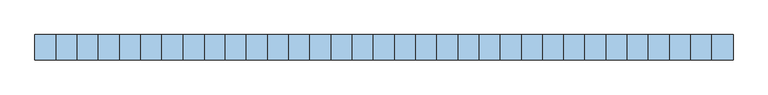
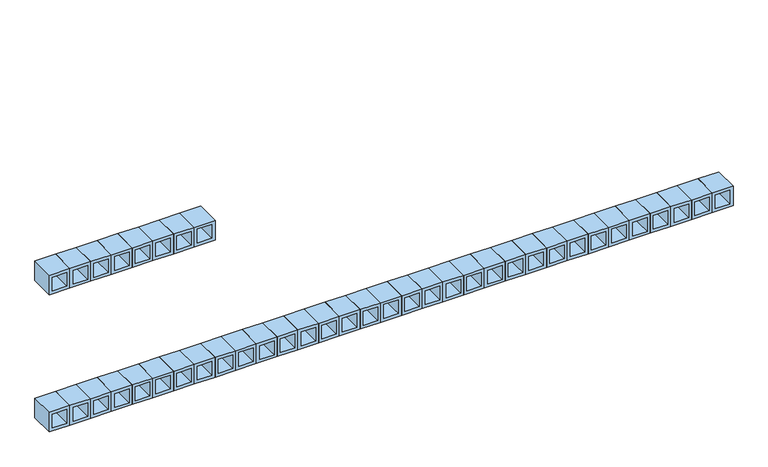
"""IFC4 building model written with IfcOpenShell, lengths in millimetres: window geometry, Concrete_Cobog_Hollow_block_14694 : Cobogó 3,25 x 0,80 m."""

from ifc_helpers import new_model, si_unit, frame, origin, place, context, project, spatial, polyline, outline, extrude, source, transform, mapped, element, save


def window_02d14e1e(model_context):
    return source(origin(), model_context, "Body", "SweptSolid", [
        extrude(outline(polyline([(1500.0, -850.0), (1600.0, -850.0), (1600.0, -950.0), (1500.0, -950.0), (1500.0, -850.0)]), holes=[polyline([(1585.0, -935.0), (1585.0, -865.0), (1515.0, -865.0), (1515.0, -935.0), (1585.0, -935.0)])]), frame((0.0, -60.0, 0.0), z_axis=(0.0, 1.0, 0.0), x_axis=(0.0, 0.0, 1.0)), (0.0, 0.0, 1.0), 120.0),
        extrude(outline(polyline([(1500.0, -950.0), (1600.0, -950.0), (1600.0, -1050.0), (1500.0, -1050.0), (1500.0, -950.0)]), holes=[polyline([(1585.0, -1035.0), (1585.0, -965.0), (1515.0, -965.0), (1515.0, -1035.0), (1585.0, -1035.0)])]), frame((0.0, -60.0, 0.0), z_axis=(0.0, 1.0, 0.0), x_axis=(0.0, 0.0, 1.0)), (0.0, 0.0, 1.0), 120.0),
        extrude(outline(polyline([(1500.0, -1050.0), (1600.0, -1050.0), (1600.0, -1150.0), (1500.0, -1150.0), (1500.0, -1050.0)]), holes=[polyline([(1585.0, -1135.0), (1585.0, -1065.0), (1515.0, -1065.0), (1515.0, -1135.0), (1585.0, -1135.0)])]), frame((0.0, -60.0, 0.0), z_axis=(0.0, 1.0, 0.0), x_axis=(0.0, 0.0, 1.0)), (0.0, 0.0, 1.0), 120.0),
        extrude(outline(polyline([(1500.0, -1150.0), (1600.0, -1150.0), (1600.0, -1250.0), (1500.0, -1250.0), (1500.0, -1150.0)]), holes=[polyline([(1585.0, -1235.0), (1585.0, -1165.0), (1515.0, -1165.0), (1515.0, -1235.0), (1585.0, -1235.0)])]), frame((0.0, -60.0, 0.0), z_axis=(0.0, 1.0, 0.0), x_axis=(0.0, 0.0, 1.0)), (0.0, 0.0, 1.0), 120.0),
        extrude(outline(polyline([(1500.0, -1250.0), (1600.0, -1250.0), (1600.0, -1350.0), (1500.0, -1350.0), (1500.0, -1250.0)]), holes=[polyline([(1585.0, -1335.0), (1585.0, -1265.0), (1515.0, -1265.0), (1515.0, -1335.0), (1585.0, -1335.0)])]), frame((0.0, -60.0, 0.0), z_axis=(0.0, 1.0, 0.0), x_axis=(0.0, 0.0, 1.0)), (0.0, 0.0, 1.0), 120.0),
        extrude(outline(polyline([(1500.0, -1350.0), (1600.0, -1350.0), (1600.0, -1450.0), (1500.0, -1450.0), (1500.0, -1350.0)]), holes=[polyline([(1585.0, -1435.0), (1585.0, -1365.0), (1515.0, -1365.0), (1515.0, -1435.0), (1585.0, -1435.0)])]), frame((0.0, -60.0, 0.0), z_axis=(0.0, 1.0, 0.0), x_axis=(0.0, 0.0, 1.0)), (0.0, 0.0, 1.0), 120.0),
        extrude(outline(polyline([(1500.0, -1450.0), (1600.0, -1450.0), (1600.0, -1550.0), (1500.0, -1550.0), (1500.0, -1450.0)]), holes=[polyline([(1585.0, -1535.0), (1585.0, -1465.0), (1515.0, -1465.0), (1515.0, -1535.0), (1585.0, -1535.0)])]), frame((0.0, -60.0, 0.0), z_axis=(0.0, 1.0, 0.0), x_axis=(0.0, 0.0, 1.0)), (0.0, 0.0, 1.0), 120.0),
        extrude(outline(polyline([(1500.0, -1550.0), (1600.0, -1550.0), (1600.0, -1650.0), (1500.0, -1650.0), (1500.0, -1550.0)]), holes=[polyline([(1585.0, -1635.0), (1585.0, -1565.0), (1515.0, -1565.0), (1515.0, -1635.0), (1585.0, -1635.0)])]), frame((0.0, -60.0, 0.0), z_axis=(0.0, 1.0, 0.0), x_axis=(0.0, 0.0, 1.0)), (0.0, 0.0, 1.0), 120.0),
        extrude(outline(polyline([(800.0, 1650.0), (900.0, 1650.0), (900.0, 1550.0), (800.0, 1550.0), (800.0, 1650.0)]), holes=[polyline([(885.0, 1565.0), (885.0, 1635.0), (815.0, 1635.0), (815.0, 1565.0), (885.0, 1565.0)])]), frame((0.0, -60.0, 0.0), z_axis=(0.0, 1.0, 0.0), x_axis=(0.0, 0.0, 1.0)), (0.0, 0.0, 1.0), 120.0),
        extrude(outline(polyline([(800.0, 1550.0), (900.0, 1550.0), (900.0, 1450.0), (800.0, 1450.0), (800.0, 1550.0)]), holes=[polyline([(885.0, 1465.0), (885.0, 1535.0), (815.0, 1535.0), (815.0, 1465.0), (885.0, 1465.0)])]), frame((0.0, -60.0, 0.0), z_axis=(0.0, 1.0, 0.0), x_axis=(0.0, 0.0, 1.0)), (0.0, 0.0, 1.0), 120.0),
        extrude(outline(polyline([(800.0, 1450.0), (900.0, 1450.0), (900.0, 1350.0), (800.0, 1350.0), (800.0, 1450.0)]), holes=[polyline([(885.0, 1365.0), (885.0, 1435.0), (815.0, 1435.0), (815.0, 1365.0), (885.0, 1365.0)])]), frame((0.0, -60.0, 0.0), z_axis=(0.0, 1.0, 0.0), x_axis=(0.0, 0.0, 1.0)), (0.0, 0.0, 1.0), 120.0),
        extrude(outline(polyline([(800.0, 1350.0), (900.0, 1350.0), (900.0, 1250.0), (800.0, 1250.0), (800.0, 1350.0)]), holes=[polyline([(885.0, 1265.0), (885.0, 1335.0), (815.0, 1335.0), (815.0, 1265.0), (885.0, 1265.0)])]), frame((0.0, -60.0, 0.0), z_axis=(0.0, 1.0, 0.0), x_axis=(0.0, 0.0, 1.0)), (0.0, 0.0, 1.0), 120.0),
        extrude(outline(polyline([(800.0, 1250.0), (900.0, 1250.0), (900.0, 1150.0), (800.0, 1150.0), (800.0, 1250.0)]), holes=[polyline([(885.0, 1165.0), (885.0, 1235.0), (815.0, 1235.0), (815.0, 1165.0), (885.0, 1165.0)])]), frame((0.0, -60.0, 0.0), z_axis=(0.0, 1.0, 0.0), x_axis=(0.0, 0.0, 1.0)), (0.0, 0.0, 1.0), 120.0),
        extrude(outline(polyline([(800.0, 1150.0), (900.0, 1150.0), (900.0, 1050.0), (800.0, 1050.0), (800.0, 1150.0)]), holes=[polyline([(885.0, 1065.0), (885.0, 1135.0), (815.0, 1135.0), (815.0, 1065.0), (885.0, 1065.0)])]), frame((0.0, -60.0, 0.0), z_axis=(0.0, 1.0, 0.0), x_axis=(0.0, 0.0, 1.0)), (0.0, 0.0, 1.0), 120.0),
        extrude(outline(polyline([(800.0, 1050.0), (900.0, 1050.0), (900.0, 950.0), (800.0, 950.0), (800.0, 1050.0)]), holes=[polyline([(885.0, 965.0), (885.0, 1035.0), (815.0, 1035.0), (815.0, 965.0), (885.0, 965.0)])]), frame((0.0, -60.0, 0.0), z_axis=(0.0, 1.0, 0.0), x_axis=(0.0, 0.0, 1.0)), (0.0, 0.0, 1.0), 120.0),
        extrude(outline(polyline([(800.0, 950.0), (900.0, 950.0), (900.0, 850.0), (800.0, 850.0), (800.0, 950.0)]), holes=[polyline([(885.0, 865.0), (885.0, 935.0), (815.0, 935.0), (815.0, 865.0), (885.0, 865.0)])]), frame((0.0, -60.0, 0.0), z_axis=(0.0, 1.0, 0.0), x_axis=(0.0, 0.0, 1.0)), (0.0, 0.0, 1.0), 120.0),
        extrude(outline(polyline([(800.0, 850.0), (900.0, 850.0), (900.0, 750.0), (800.0, 750.0), (800.0, 850.0)]), holes=[polyline([(885.0, 765.0), (885.0, 835.0), (815.0, 835.0), (815.0, 765.0), (885.0, 765.0)])]), frame((0.0, -60.0, 0.0), z_axis=(0.0, 1.0, 0.0), x_axis=(0.0, 0.0, 1.0)), (0.0, 0.0, 1.0), 120.0),
        extrude(outline(polyline([(800.0, 750.0), (900.0, 750.0), (900.0, 650.0), (800.0, 650.0), (800.0, 750.0)]), holes=[polyline([(885.0, 665.0), (885.0, 735.0), (815.0, 735.0), (815.0, 665.0), (885.0, 665.0)])]), frame((0.0, -60.0, 0.0), z_axis=(0.0, 1.0, 0.0), x_axis=(0.0, 0.0, 1.0)), (0.0, 0.0, 1.0), 120.0),
        extrude(outline(polyline([(800.0, 650.0), (900.0, 650.0), (900.0, 550.0), (800.0, 550.0), (800.0, 650.0)]), holes=[polyline([(885.0, 565.0), (885.0, 635.0), (815.0, 635.0), (815.0, 565.0), (885.0, 565.0)])]), frame((0.0, -60.0, 0.0), z_axis=(0.0, 1.0, 0.0), x_axis=(0.0, 0.0, 1.0)), (0.0, 0.0, 1.0), 120.0),
        extrude(outline(polyline([(800.0, 550.0), (900.0, 550.0), (900.0, 450.0), (800.0, 450.0), (800.0, 550.0)]), holes=[polyline([(885.0, 465.0), (885.0, 535.0), (815.0, 535.0), (815.0, 465.0), (885.0, 465.0)])]), frame((0.0, -60.0, 0.0), z_axis=(0.0, 1.0, 0.0), x_axis=(0.0, 0.0, 1.0)), (0.0, 0.0, 1.0), 120.0),
        extrude(outline(polyline([(800.0, 450.0), (900.0, 450.0), (900.0, 350.0), (800.0, 350.0), (800.0, 450.0)]), holes=[polyline([(885.0, 365.0), (885.0, 435.0), (815.0, 435.0), (815.0, 365.0), (885.0, 365.0)])]), frame((0.0, -60.0, 0.0), z_axis=(0.0, 1.0, 0.0), x_axis=(0.0, 0.0, 1.0)), (0.0, 0.0, 1.0), 120.0),
        extrude(outline(polyline([(800.0, 350.0), (900.0, 350.0), (900.0, 250.0), (800.0, 250.0), (800.0, 350.0)]), holes=[polyline([(885.0, 265.0), (885.0, 335.0), (815.0, 335.0), (815.0, 265.0), (885.0, 265.0)])]), frame((0.0, -60.0, 0.0), z_axis=(0.0, 1.0, 0.0), x_axis=(0.0, 0.0, 1.0)), (0.0, 0.0, 1.0), 120.0),
        extrude(outline(polyline([(800.0, 250.0), (900.0, 250.0), (900.0, 150.0), (800.0, 150.0), (800.0, 250.0)]), holes=[polyline([(885.0, 165.0), (885.0, 235.0), (815.0, 235.0), (815.0, 165.0), (885.0, 165.0)])]), frame((0.0, -60.0, 0.0), z_axis=(0.0, 1.0, 0.0), x_axis=(0.0, 0.0, 1.0)), (0.0, 0.0, 1.0), 120.0),
        extrude(outline(polyline([(800.0, 150.0), (900.0, 150.0), (900.0, 50.0), (800.0, 50.0), (800.0, 150.0)]), holes=[polyline([(885.0, 65.0), (885.0, 135.0), (815.0, 135.0), (815.0, 65.0), (885.0, 65.0)])]), frame((0.0, -60.0, 0.0), z_axis=(0.0, 1.0, 0.0), x_axis=(0.0, 0.0, 1.0)), (0.0, 0.0, 1.0), 120.0),
        extrude(outline(polyline([(800.0, 50.0), (900.0, 50.0), (900.0, -50.0), (800.0, -50.0), (800.0, 50.0)]), holes=[polyline([(885.0, -35.0), (885.0, 35.0), (815.0, 35.0), (815.0, -35.0), (885.0, -35.0)])]), frame((0.0, -60.0, 0.0), z_axis=(0.0, 1.0, 0.0), x_axis=(0.0, 0.0, 1.0)), (0.0, 0.0, 1.0), 120.0),
        extrude(outline(polyline([(800.0, -50.0), (900.0, -50.0), (900.0, -150.0), (800.0, -150.0), (800.0, -50.0)]), holes=[polyline([(885.0, -135.0), (885.0, -65.0), (815.0, -65.0), (815.0, -135.0), (885.0, -135.0)])]), frame((0.0, -60.0, 0.0), z_axis=(0.0, 1.0, 0.0), x_axis=(0.0, 0.0, 1.0)), (0.0, 0.0, 1.0), 120.0),
        extrude(outline(polyline([(800.0, -150.0), (900.0, -150.0), (900.0, -250.0), (800.0, -250.0), (800.0, -150.0)]), holes=[polyline([(885.0, -235.0), (885.0, -165.0), (815.0, -165.0), (815.0, -235.0), (885.0, -235.0)])]), frame((0.0, -60.0, 0.0), z_axis=(0.0, 1.0, 0.0), x_axis=(0.0, 0.0, 1.0)), (0.0, 0.0, 1.0), 120.0),
        extrude(outline(polyline([(800.0, -250.0), (900.0, -250.0), (900.0, -350.0), (800.0, -350.0), (800.0, -250.0)]), holes=[polyline([(885.0, -335.0), (885.0, -265.0), (815.0, -265.0), (815.0, -335.0), (885.0, -335.0)])]), frame((0.0, -60.0, 0.0), z_axis=(0.0, 1.0, 0.0), x_axis=(0.0, 0.0, 1.0)), (0.0, 0.0, 1.0), 120.0),
        extrude(outline(polyline([(800.0, -350.0), (900.0, -350.0), (900.0, -450.0), (800.0, -450.0), (800.0, -350.0)]), holes=[polyline([(885.0, -435.0), (885.0, -365.0), (815.0, -365.0), (815.0, -435.0), (885.0, -435.0)])]), frame((0.0, -60.0, 0.0), z_axis=(0.0, 1.0, 0.0), x_axis=(0.0, 0.0, 1.0)), (0.0, 0.0, 1.0), 120.0),
        extrude(outline(polyline([(800.0, -450.0), (900.0, -450.0), (900.0, -550.0), (800.0, -550.0), (800.0, -450.0)]), holes=[polyline([(885.0, -535.0), (885.0, -465.0), (815.0, -465.0), (815.0, -535.0), (885.0, -535.0)])]), frame((0.0, -60.0, 0.0), z_axis=(0.0, 1.0, 0.0), x_axis=(0.0, 0.0, 1.0)), (0.0, 0.0, 1.0), 120.0),
        extrude(outline(polyline([(800.0, -550.0), (900.0, -550.0), (900.0, -650.0), (800.0, -650.0), (800.0, -550.0)]), holes=[polyline([(885.0, -635.0), (885.0, -565.0), (815.0, -565.0), (815.0, -635.0), (885.0, -635.0)])]), frame((0.0, -60.0, 0.0), z_axis=(0.0, 1.0, 0.0), x_axis=(0.0, 0.0, 1.0)), (0.0, 0.0, 1.0), 120.0),
        extrude(outline(polyline([(800.0, -650.0), (900.0, -650.0), (900.0, -750.0), (800.0, -750.0), (800.0, -650.0)]), holes=[polyline([(885.0, -735.0), (885.0, -665.0), (815.0, -665.0), (815.0, -735.0), (885.0, -735.0)])]), frame((0.0, -60.0, 0.0), z_axis=(0.0, 1.0, 0.0), x_axis=(0.0, 0.0, 1.0)), (0.0, 0.0, 1.0), 120.0),
        extrude(outline(polyline([(800.0, -750.0), (900.0, -750.0), (900.0, -850.0), (800.0, -850.0), (800.0, -750.0)]), holes=[polyline([(885.0, -835.0), (885.0, -765.0), (815.0, -765.0), (815.0, -835.0), (885.0, -835.0)])]), frame((0.0, -60.0, 0.0), z_axis=(0.0, 1.0, 0.0), x_axis=(0.0, 0.0, 1.0)), (0.0, 0.0, 1.0), 120.0),
        extrude(outline(polyline([(800.0, -850.0), (900.0, -850.0), (900.0, -950.0), (800.0, -950.0), (800.0, -850.0)]), holes=[polyline([(885.0, -935.0), (885.0, -865.0), (815.0, -865.0), (815.0, -935.0), (885.0, -935.0)])]), frame((0.0, -60.0, 0.0), z_axis=(0.0, 1.0, 0.0), x_axis=(0.0, 0.0, 1.0)), (0.0, 0.0, 1.0), 120.0),
        extrude(outline(polyline([(800.0, -950.0), (900.0, -950.0), (900.0, -1050.0), (800.0, -1050.0), (800.0, -950.0)]), holes=[polyline([(885.0, -1035.0), (885.0, -965.0), (815.0, -965.0), (815.0, -1035.0), (885.0, -1035.0)])]), frame((0.0, -60.0, 0.0), z_axis=(0.0, 1.0, 0.0), x_axis=(0.0, 0.0, 1.0)), (0.0, 0.0, 1.0), 120.0),
        extrude(outline(polyline([(800.0, -1050.0), (900.0, -1050.0), (900.0, -1150.0), (800.0, -1150.0), (800.0, -1050.0)]), holes=[polyline([(885.0, -1135.0), (885.0, -1065.0), (815.0, -1065.0), (815.0, -1135.0), (885.0, -1135.0)])]), frame((0.0, -60.0, 0.0), z_axis=(0.0, 1.0, 0.0), x_axis=(0.0, 0.0, 1.0)), (0.0, 0.0, 1.0), 120.0),
        extrude(outline(polyline([(800.0, -1150.0), (900.0, -1150.0), (900.0, -1250.0), (800.0, -1250.0), (800.0, -1150.0)]), holes=[polyline([(885.0, -1235.0), (885.0, -1165.0), (815.0, -1165.0), (815.0, -1235.0), (885.0, -1235.0)])]), frame((0.0, -60.0, 0.0), z_axis=(0.0, 1.0, 0.0), x_axis=(0.0, 0.0, 1.0)), (0.0, 0.0, 1.0), 120.0),
        extrude(outline(polyline([(800.0, -1250.0), (900.0, -1250.0), (900.0, -1350.0), (800.0, -1350.0), (800.0, -1250.0)]), holes=[polyline([(885.0, -1335.0), (885.0, -1265.0), (815.0, -1265.0), (815.0, -1335.0), (885.0, -1335.0)])]), frame((0.0, -60.0, 0.0), z_axis=(0.0, 1.0, 0.0), x_axis=(0.0, 0.0, 1.0)), (0.0, 0.0, 1.0), 120.0),
        extrude(outline(polyline([(800.0, -1350.0), (900.0, -1350.0), (900.0, -1450.0), (800.0, -1450.0), (800.0, -1350.0)]), holes=[polyline([(885.0, -1435.0), (885.0, -1365.0), (815.0, -1365.0), (815.0, -1435.0), (885.0, -1435.0)])]), frame((0.0, -60.0, 0.0), z_axis=(0.0, 1.0, 0.0), x_axis=(0.0, 0.0, 1.0)), (0.0, 0.0, 1.0), 120.0),
        extrude(outline(polyline([(800.0, -1450.0), (900.0, -1450.0), (900.0, -1550.0), (800.0, -1550.0), (800.0, -1450.0)]), holes=[polyline([(885.0, -1535.0), (885.0, -1465.0), (815.0, -1465.0), (815.0, -1535.0), (885.0, -1535.0)])]), frame((0.0, -60.0, 0.0), z_axis=(0.0, 1.0, 0.0), x_axis=(0.0, 0.0, 1.0)), (0.0, 0.0, 1.0), 120.0),
        extrude(outline(polyline([(800.0, -1550.0), (900.0, -1550.0), (900.0, -1650.0), (800.0, -1650.0), (800.0, -1550.0)]), holes=[polyline([(885.0, -1635.0), (885.0, -1565.0), (815.0, -1565.0), (815.0, -1635.0), (885.0, -1635.0)])]), frame((0.0, -60.0, 0.0), z_axis=(0.0, 1.0, 0.0), x_axis=(0.0, 0.0, 1.0)), (0.0, 0.0, 1.0), 120.0),
    ])


if __name__ == "__main__":
    model = new_model("IFC4")
    model_context = context("Model", 3, world=origin())
    ifc_project = project(units=[si_unit("LENGTHUNIT", "METRE", prefix="MILLI")], contexts=[model_context])
    site = spatial("IfcSite", under=ifc_project)
    building = spatial("IfcBuilding", under=site)
    placement = place(None, origin())
    window_shape = window_02d14e1e(model_context)
    element("IfcWindow", 1, ObjectType="Concrete_Cobog_Hollow_block_14694 : Cobogó 3,25 x 0,80 m", at=placement, inside=building, context=model_context, shape_type="MappedRepresentation", body=[
        mapped(window_shape, transform((0.0, 0.0, 0.0), x_axis=(1.0, 0.0, 0.0), y_axis=(0.0, 1.0, 0.0), z_axis=(0.0, 0.0, 1.0))),
    ])
    save(model, "model.ifc")
